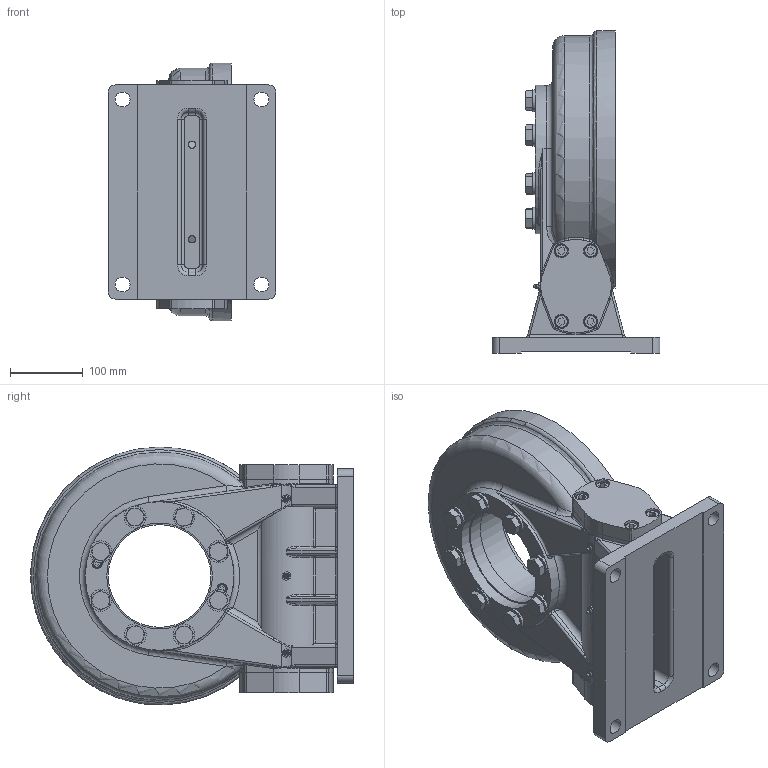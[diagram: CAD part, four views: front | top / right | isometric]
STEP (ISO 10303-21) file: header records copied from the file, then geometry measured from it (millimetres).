
FILE_DESCRIPTION (( 'STEP AP214' ), '1' );
FILE_NAME ('FPVE9A-61M-25S-R-REV.A.STEP', '2022-08-02T14:21:29', ( '' ), ( '' ), 'SwSTEP 2.0', 'SolidWorks 2018', '' );
FILE_SCHEMA (( 'AUTOMOTIVE_DESIGN' ));
Length unit declared in the file: millimetre
Products named in the file (1): FPVE9A-61M-25S-R-REV.A
Bounding box: 230.5 x 443 x 354 mm (x, y, z)
Volume: 7697944.9 mm3; surface area: 1297615 mm2
Topology: 30 solids, 30 shells, 1058 faces, 2279 edges, 1397 vertices
Faces by surface type: plane 412, cylinder 341, cone 115, bspline 95, torus 66, sphere 29
Full cylindrical faces by diameter (mm): 5 x2, 6 x4, 7 x5, 8 x2, 10 x10, 10.2 x8, 11 x2, 12 x10, 13 x8, 14 x20, 16 x24, 17 x8, 17.5 x8, 18 x16, 19 x2, 19.5 x8, 20.5 x4, 24 x1, 30 x8, 34 x4, 35 x1, 40 x2, 41.908 x1, 47 x1, 50 x2, 65 x1, 66 x1, 68.5 x2, 80 x4, 82.55 x1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
Entity records: 43576 total; most frequent: CARTESIAN_POINT 10489, DIRECTION 4398, ORIENTED_EDGE 3820, EDGE_CURVE 1910, AXIS2_PLACEMENT_3D 1847, EDGE_LOOP 1576, VERTEX_POINT 1336, FACE_OUTER_BOUND 1276
